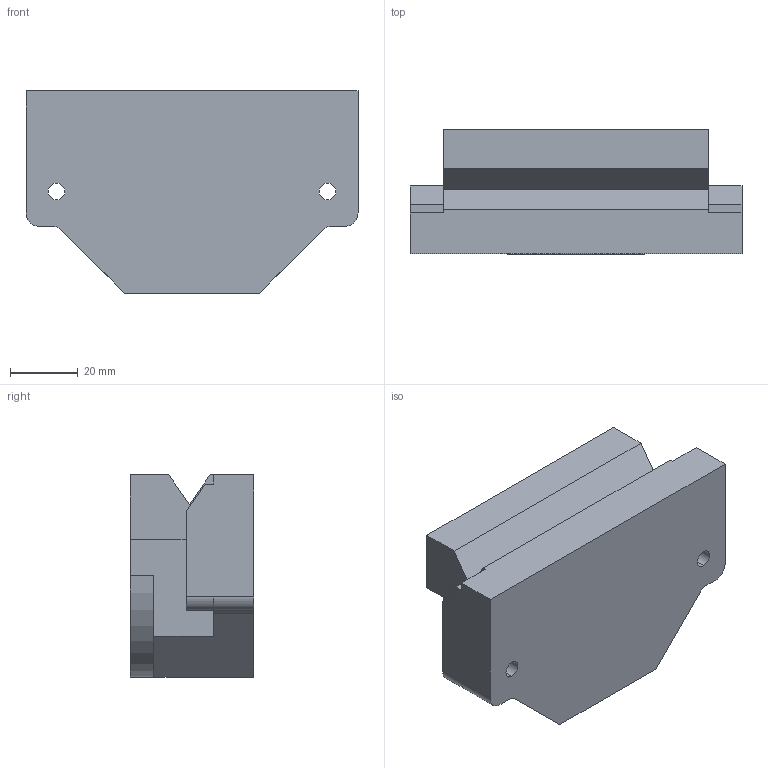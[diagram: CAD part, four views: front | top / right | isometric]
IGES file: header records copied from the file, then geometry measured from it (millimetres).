
Start section: 3D InterOp IGES (v. 2019 1.0.2), Spatial Corp. Copyright (c) 1999-2017.
Global section: file name: SS CS 54.igs; native system: Spatial Corp.; preprocessor: 3D InterOp GENERIC/IGES 3.0; author: Noname; organization: Noname; date: 20220628.115130; units: millimetre
Bounding box: 98 x 36.5 x 59.7 mm (x, y, z)
Surface area: 21329.9 mm2 (no closed solid volume)
Topology: 0 solids, 0 shells, 43 faces, 246 edges, 246 vertices
Faces by surface type: extrusion 31, revolution 12
